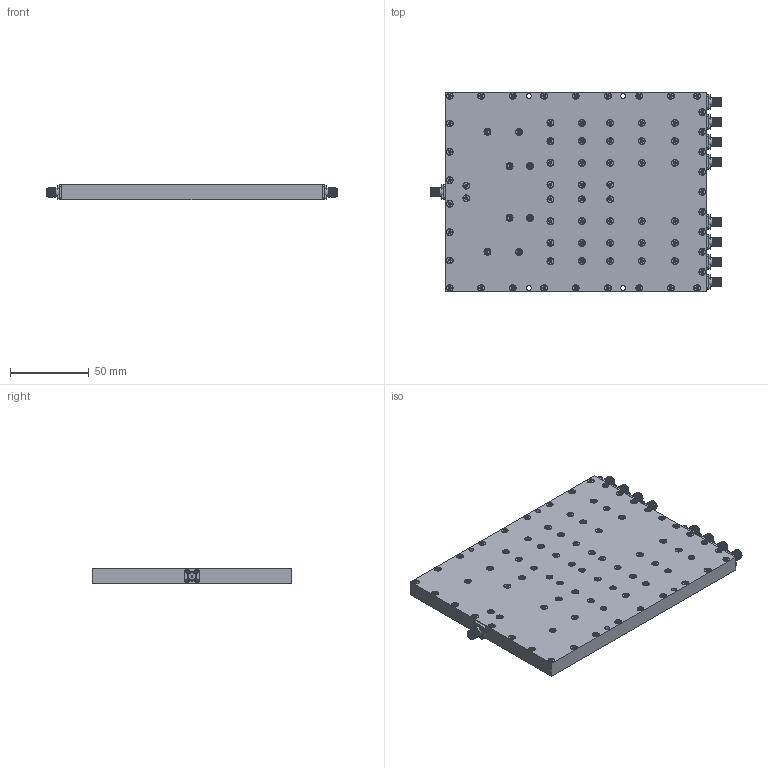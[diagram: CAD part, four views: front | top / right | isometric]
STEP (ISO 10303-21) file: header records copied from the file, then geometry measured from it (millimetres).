
FILE_DESCRIPTION(/* description */ ('Unknown'),/* implementation_level */ '2;1');
FILE_NAME(/* name */ 'DETI_MICROWAVE_8-WAY_POWER_DIVIDER_800290_STEP',/* time_stamp */ '2021-06-28T14:11:01+02:00',/* author */ ('ALG'),/* organization */ ('DETI'),/* preprocessor_version */ 'ST-DEVELOPER v16.7',/* originating_system */ 'Solid Edge',/* authorisation */ 'Unknown');
FILE_SCHEMA (('AUTOMOTIVE_DESIGN {1 0 10303 214 3 1 1}'));
Products named in the file (1): 001691 0B 1601A2
Bounding box: 184.4 x 127 x 10 mm (x, y, z)
Volume: 169734.3 mm3; surface area: 96684.8 mm2
Topology: 1 solids, 105 shells, 3909 faces, 10541 edges, 7025 vertices
Faces by surface type: plane 2973, cylinder 508, cone 313, torus 115
Full cylindrical faces by diameter (mm): 1.1 x9, 1.221 x36, 1.27 x18, 1.4 x36, 1.8 x36, 2 x79, 2.2 x79, 2.6 x36, 3.2 x4, 3.8 x79, 4.1 x9, 4.6 x9, 5.3 x18
Entity records: 139354 total; most frequent: CARTESIAN_POINT 20120, ORIENTED_EDGE 18056, DIRECTION 17962, EDGE_CURVE 9028, LINE 7474, VECTOR 7474, VERTEX_POINT 6462, FACE_BOUND 5280
